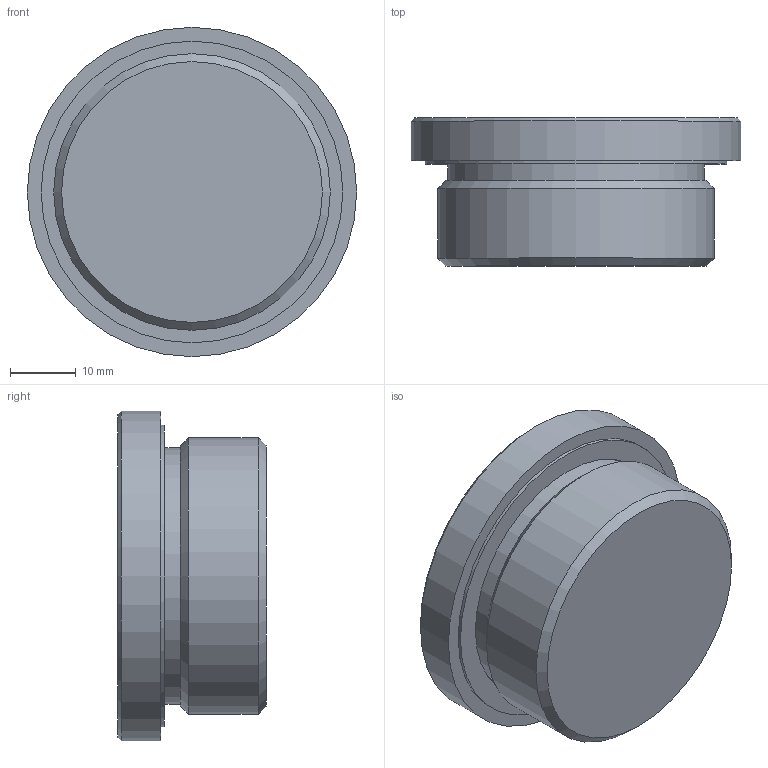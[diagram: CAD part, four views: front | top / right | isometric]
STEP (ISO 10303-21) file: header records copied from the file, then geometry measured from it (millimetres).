
FILE_DESCRIPTION( ( 'STEP AP203' ), '1' );
FILE_NAME( 'C:/Temp/Ganter_Step_05_03_2020/data/3_5/gn749/gn749_a/Threaded plug GN 749-M42x2-A.stp', '2020-03-12T13:41:36', ( 'License CC BY-ND 4.0' ), ( 'CADENAS' ), ' ', 'PARTsolutions', ' ' );
FILE_SCHEMA( ( 'CONFIG_CONTROL_DESIGN' ) );
Length unit declared in the file: millimetre
Products named in the file (1): _Threaded plug GN 749-M42x2-A
Bounding box: 50 x 22.5 x 50 mm (x, y, z)
Volume: 29335.6 mm3; surface area: 8225.4 mm2
Topology: 1 solids, 1 shells, 21 faces, 41 edges, 27 vertices
Faces by surface type: plane 13, cylinder 5, cone 3
Full cylindrical faces by diameter (mm): 39 x1, 39.4 x1, 42 x1, 45.8 x1, 50 x1
Entity records: 526 total; most frequent: DIRECTION 88, CARTESIAN_POINT 78, ORIENTED_EDGE 62, AXIS2_PLACEMENT_3D 35, EDGE_LOOP 34, EDGE_CURVE 31, FACE_OUTER_BOUND 26, VERTEX_POINT 25
